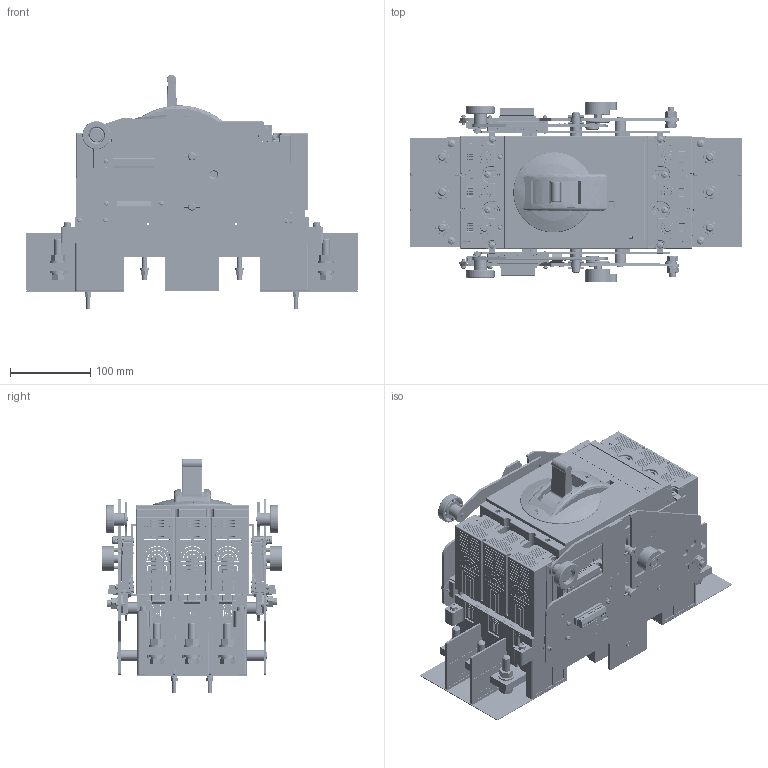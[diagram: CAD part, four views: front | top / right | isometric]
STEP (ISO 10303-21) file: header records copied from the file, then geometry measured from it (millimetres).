
FILE_DESCRIPTION(/* description */ (''),/* implementation_level */ '2;1');
FILE_NAME(/* name */ 'CM5-630 chouchu.stp',/* time_stamp */ '2023-11-16T14:17:03+08:00',/* author */ (''),/* organization */ (''),/* preprocessor_version */ 'ST-DEVELOPER v16.7',/* originating_system */ 'SIEMENS PLM Software NX 12.0',/* authorisation */ '');
FILE_SCHEMA (('AUTOMOTIVE_DESIGN { 1 0 10303 214 3 1 1 1 }'));
Products named in the file (1): _model4
Bounding box: 413 x 223.23 x 291.25 mm (x, y, z)
Volume: 2951036 mm3; surface area: 1836747 mm2
Topology: 6 solids, 176 shells, 26607 faces, 73927 edges, 46995 vertices
Faces by surface type: plane 15001, cylinder 7582, torus 1946, cone 1255, sphere 414, bspline 236, extrusion 173
Full cylindrical faces by diameter (mm): 0.9 x22, 1 x98, 1.1 x22, 1.2 x66, 1.4 x2, 1.6 x4, 1.7 x1, 1.8 x3, 2 x1, 2.1 x4, 2.2 x4, 2.3 x11, 2.4 x4, 2.5 x41, 2.52 x3, 2.7 x2, 2.8 x22, 2.9 x2, 3 x105, 3.1 x8, 3.2 x50, 3.3 x20, 3.5 x40, 4 x183, 4.1 x1, 4.2 x4, 4.3 x63, 4.351 x4, 4.5 x24, 4.8 x1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
Entity records: 856423 total; most frequent: CARTESIAN_POINT 180068, DIRECTION 139114, ORIENTED_EDGE 138934, EDGE_CURVE 69467, AXIS2_PLACEMENT_3D 46835, VERTEX_POINT 45877, VECTOR 45444, LINE 45271
